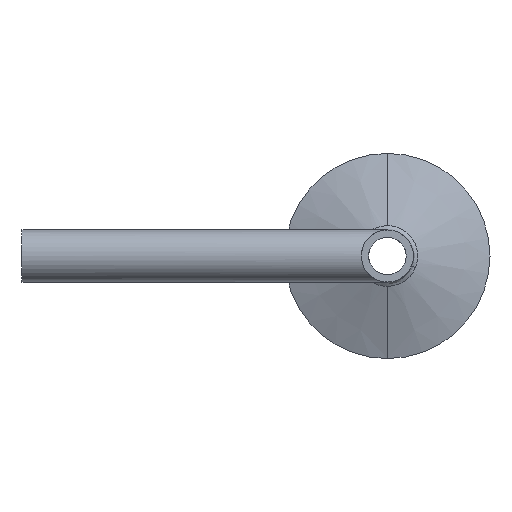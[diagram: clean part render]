
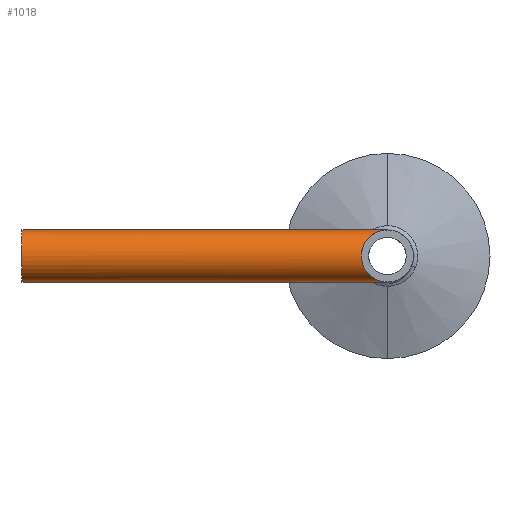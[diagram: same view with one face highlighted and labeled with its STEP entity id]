
A CAD part, left-side view. The second image highlights one B-rep face of the part: STEP entity #1018.
In plain terms, the highlighted cylindrical face has radius 3.175 mm (diameter 6.35 mm), a partial arc.
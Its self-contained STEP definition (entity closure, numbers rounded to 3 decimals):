
#7 = CARTESIAN_POINT ( 'NONE',  ( 0., 44.5, 3.175 ) ) ;
#13 = VERTEX_POINT ( 'NONE', #720 ) ;
#56 = DIRECTION ( 'NONE',  ( 0., 0., -1. ) ) ;
#87 = VERTEX_POINT ( 'NONE', #818 ) ;
#93 = AXIS2_PLACEMENT_3D ( 'NONE', #1093, #1068, #56 ) ;
#187 = DIRECTION ( 'NONE',  ( 0., -1., 0. ) ) ;
#273 = VECTOR ( 'NONE', #187, 1000. ) ;
#281 = EDGE_CURVE ( 'NONE', #446, #1014, #636, .T. ) ;
#369 = CARTESIAN_POINT ( 'NONE',  ( 0., 0., 3.175 ) ) ;
#446 = VERTEX_POINT ( 'NONE', #369 ) ;
#464 = VECTOR ( 'NONE', #1043, 1000. ) ;
#480 = LINE ( 'NONE', #921, #464 ) ;
#541 = ORIENTED_EDGE ( 'NONE', *, *, #706, .T. ) ;
#561 = CARTESIAN_POINT ( 'NONE',  ( 0., 0., 3.175 ) ) ;
#594 = DIRECTION ( 'NONE',  ( 0., -1., 0. ) ) ;
#604 = FACE_OUTER_BOUND ( 'NONE', #739, .T. ) ;
#620 = CIRCLE ( 'NONE', #93, 3.175 ) ;
#632 = DIRECTION ( 'NONE',  ( 0., 0., -1. ) ) ;
#636 =( BOUNDED_CURVE ( )  B_SPLINE_CURVE ( 3, ( #561, #1151, #1074, #904 ),
 .UNSPECIFIED., .F., .T. ) 
 B_SPLINE_CURVE_WITH_KNOTS ( ( 4, 4 ),
 ( 1.571, 4.712 ),
 .UNSPECIFIED. ) 
 CURVE ( )  GEOMETRIC_REPRESENTATION_ITEM ( )  RATIONAL_B_SPLINE_CURVE ( ( 1., 0.333, 0.333, 1. ) ) 
 REPRESENTATION_ITEM ( '' )  );
#686 = CARTESIAN_POINT ( 'NONE',  ( 0., 0., -3.175 ) ) ;
#706 = EDGE_CURVE ( 'NONE', #87, #1014, #480, .T. ) ;
#709 = ORIENTED_EDGE ( 'NONE', *, *, #281, .F. ) ;
#718 = CARTESIAN_POINT ( 'NONE',  ( 0., 44.5, 0. ) ) ;
#720 = CARTESIAN_POINT ( 'NONE',  ( 0., 44.5, 3.175 ) ) ;
#739 = EDGE_LOOP ( 'NONE', ( #845, #1051, #541, #709 ) ) ;
#818 = CARTESIAN_POINT ( 'NONE',  ( 0., 44.5, -3.175 ) ) ;
#845 = ORIENTED_EDGE ( 'NONE', *, *, #1232, .F. ) ;
#904 = CARTESIAN_POINT ( 'NONE',  ( 0., 0., -3.175 ) ) ;
#921 = CARTESIAN_POINT ( 'NONE',  ( 0., 44.5, -3.175 ) ) ;
#1014 = VERTEX_POINT ( 'NONE', #686 ) ;
#1018 = ADVANCED_FACE ( 'NONE', ( #604 ), #1112, .T. ) ;
#1043 = DIRECTION ( 'NONE',  ( 0., -1., 0. ) ) ;
#1051 = ORIENTED_EDGE ( 'NONE', *, *, #1080, .T. ) ;
#1060 = LINE ( 'NONE', #7, #273 ) ;
#1068 = DIRECTION ( 'NONE',  ( 0., -1., 0. ) ) ;
#1074 = CARTESIAN_POINT ( 'NONE',  ( -6.35, 6.35, -3.175 ) ) ;
#1080 = EDGE_CURVE ( 'NONE', #13, #87, #620, .T. ) ;
#1093 = CARTESIAN_POINT ( 'NONE',  ( 0., 44.5, 0. ) ) ;
#1112 = CYLINDRICAL_SURFACE ( 'NONE', #1167, 3.175 ) ;
#1151 = CARTESIAN_POINT ( 'NONE',  ( -6.35, 6.35, 3.175 ) ) ;
#1167 = AXIS2_PLACEMENT_3D ( 'NONE', #718, #594, #632 ) ;
#1232 = EDGE_CURVE ( 'NONE', #13, #446, #1060, .T. ) ;
